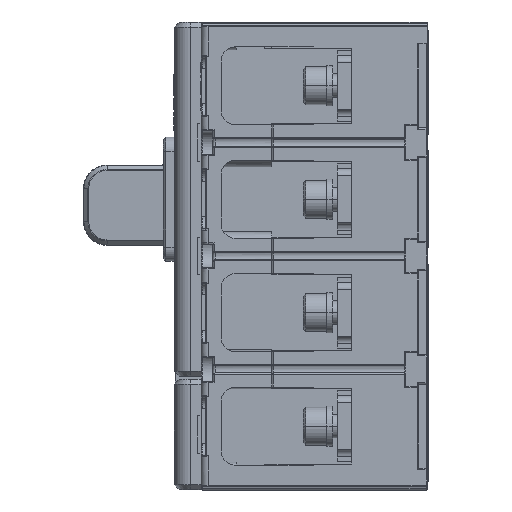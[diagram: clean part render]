
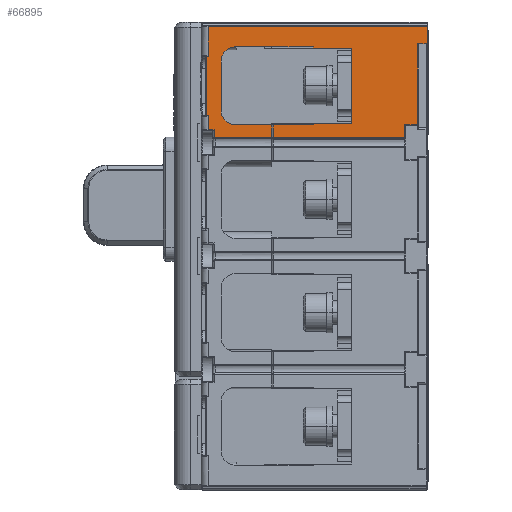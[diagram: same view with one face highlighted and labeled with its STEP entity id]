
A CAD part, left-side view. The second image highlights one B-rep face of the part: STEP entity #66895.
In plain terms, the highlighted planar face has unit normal (-1, 0, 0).
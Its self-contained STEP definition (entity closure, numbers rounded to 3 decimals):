
#15385=CARTESIAN_POINT('',(-128.5,36.3,58.5));
#15386=DIRECTION('',(-1.,0.,0.));
#15387=DIRECTION('',(0.,0.,1.));
#15388=AXIS2_PLACEMENT_3D('',#15385,#15386,#15387);
#15390=CARTESIAN_POINT('',(-128.5,36.3,37.5));
#15391=DIRECTION('',(-1.,0.,0.));
#15392=DIRECTION('',(0.,1.,0.));
#15393=AXIS2_PLACEMENT_3D('',#15390,#15391,#15392);
#15395=DIRECTION('',(0.,0.,1.));
#15396=VECTOR('',#15395,12.5);
#15397=CARTESIAN_POINT('',(-128.5,47.8,60.5));
#15398=LINE('',#15397,#15396);
#15399=DIRECTION('',(0.,-1.,0.));
#15400=VECTOR('',#15399,92.7);
#15401=CARTESIAN_POINT('',(-128.5,47.8,73.));
#15402=LINE('',#15401,#15400);
#15403=DIRECTION('',(0.,0.,-1.));
#15404=VECTOR('',#15403,7.2);
#15405=CARTESIAN_POINT('',(-128.5,-44.9,73.));
#15406=LINE('',#15405,#15404);
#15411=DIRECTION('',(0.,-1.,0.));
#15412=VECTOR('',#15411,33.);
#15413=CARTESIAN_POINT('',(-128.5,36.3,64.5));
#15414=LINE('',#15413,#15412);
#15452=DIRECTION('',(0.,0.,-1.));
#15453=VECTOR('',#15452,32.);
#15454=CARTESIAN_POINT('',(-128.5,-12.9,64.));
#15455=LINE('',#15454,#15453);
#30069=DIRECTION('',(0.,-1.,0.));
#30070=VECTOR('',#30069,4.1);
#30071=CARTESIAN_POINT('',(-128.5,-40.8,65.8));
#30072=LINE('',#30071,#30070);
#30145=DIRECTION('',(0.,-1.,0.));
#30146=VECTOR('',#30145,5.5);
#30147=CARTESIAN_POINT('',(-128.5,-35.3,31.6));
#30148=LINE('',#30147,#30146);
#30178=DIRECTION('',(0.,0.,1.));
#30179=VECTOR('',#30178,34.2);
#30180=CARTESIAN_POINT('',(-128.5,-40.8,31.6));
#30181=LINE('',#30180,#30179);
#30187=DIRECTION('',(0.,0.,1.));
#30188=VECTOR('',#30187,5.6);
#30189=CARTESIAN_POINT('',(-128.5,-35.3,26.));
#30190=LINE('',#30189,#30188);
#30839=DIRECTION('',(0.,0.,-1.));
#30840=VECTOR('',#30839,3.5);
#30841=CARTESIAN_POINT('',(-128.5,45.3,29.5));
#30842=LINE('',#30841,#30840);
#30852=DIRECTION('',(0.,-1.,0.));
#30853=VECTOR('',#30852,2.5);
#30854=CARTESIAN_POINT('',(-128.5,47.8,29.5));
#30855=LINE('',#30854,#30853);
#30944=DIRECTION('',(0.,0.,-1.));
#30945=VECTOR('',#30944,6.);
#30946=CARTESIAN_POINT('',(-128.5,47.8,35.5));
#30947=LINE('',#30946,#30945);
#31066=DIRECTION('',(0.,0.,-1.));
#31067=VECTOR('',#31066,25.);
#31068=CARTESIAN_POINT('',(-128.5,48.3,60.5));
#31069=LINE('',#31068,#31067);
#31075=DIRECTION('',(0.,-1.,0.));
#31076=VECTOR('',#31075,0.5);
#31077=CARTESIAN_POINT('',(-128.5,48.3,35.5));
#31078=LINE('',#31077,#31076);
#31094=DIRECTION('',(0.,1.,0.));
#31095=VECTOR('',#31094,0.5);
#31096=CARTESIAN_POINT('',(-128.5,47.8,60.5));
#31097=LINE('',#31096,#31095);
#31147=DIRECTION('',(0.,1.,0.));
#31148=VECTOR('',#31147,17.);
#31149=CARTESIAN_POINT('',(-128.5,3.3,31.5));
#31150=LINE('',#31149,#31148);
#31160=DIRECTION('',(0.,1.,0.));
#31161=VECTOR('',#31160,15.5);
#31162=CARTESIAN_POINT('',(-128.5,20.8,31.5));
#31163=LINE('',#31162,#31161);
#31248=DIRECTION('',(0.,1.,0.));
#31249=VECTOR('',#31248,16.2);
#31250=CARTESIAN_POINT('',(-128.5,-12.9,32.));
#31251=LINE('',#31250,#31249);
#31260=DIRECTION('',(0.,0.,-1.));
#31261=VECTOR('',#31260,0.5);
#31262=CARTESIAN_POINT('',(-128.5,3.3,32.));
#31263=LINE('',#31262,#31261);
#31272=DIRECTION('',(0.,0.,-1.));
#31273=VECTOR('',#31272,5.5);
#31274=CARTESIAN_POINT('',(-128.5,20.3,31.5));
#31275=LINE('',#31274,#31273);
#31320=DIRECTION('',(0.,0.,1.));
#31321=VECTOR('',#31320,5.5);
#31322=CARTESIAN_POINT('',(-128.5,20.8,26.));
#31323=LINE('',#31322,#31321);
#31405=DIRECTION('',(0.,-1.,0.));
#31406=VECTOR('',#31405,55.6);
#31407=CARTESIAN_POINT('',(-128.5,20.3,26.));
#31408=LINE('',#31407,#31406);
#31452=DIRECTION('',(0.,-1.,0.));
#31453=VECTOR('',#31452,24.5);
#31454=CARTESIAN_POINT('',(-128.5,45.3,26.));
#31455=LINE('',#31454,#31453);
#31464=DIRECTION('',(0.,0.,1.));
#31465=VECTOR('',#31464,21.);
#31466=CARTESIAN_POINT('',(-128.5,42.3,37.5));
#31467=LINE('',#31466,#31465);
#45360=DIRECTION('',(0.,-1.,0.));
#45361=VECTOR('',#45360,16.2);
#45362=CARTESIAN_POINT('',(-128.5,3.3,64.));
#45363=LINE('',#45362,#45361);
#45372=DIRECTION('',(0.,0.,-1.));
#45373=VECTOR('',#45372,0.5);
#45374=CARTESIAN_POINT('',(-128.5,3.3,64.5));
#45375=LINE('',#45374,#45373);
#56971=CARTESIAN_POINT('',(-128.5,-44.9,65.8));
#56972=VERTEX_POINT('',#56971);
#56973=CARTESIAN_POINT('',(-128.5,-44.9,73.));
#56975=VERTEX_POINT('',#56973);
#59275=CARTESIAN_POINT('',(-128.5,47.8,60.5));
#59276=CARTESIAN_POINT('',(-128.5,47.8,73.));
#59277=VERTEX_POINT('',#59275);
#59278=VERTEX_POINT('',#59276);
#59287=CARTESIAN_POINT('',(-128.5,36.3,64.5));
#59288=CARTESIAN_POINT('',(-128.5,42.3,58.5));
#59289=VERTEX_POINT('',#59287);
#59290=VERTEX_POINT('',#59288);
#59291=CARTESIAN_POINT('',(-128.5,42.3,37.5));
#59292=CARTESIAN_POINT('',(-128.5,36.3,31.5));
#59293=VERTEX_POINT('',#59291);
#59294=VERTEX_POINT('',#59292);
#59295=CARTESIAN_POINT('',(-128.5,20.8,31.5));
#59296=VERTEX_POINT('',#59295);
#59297=CARTESIAN_POINT('',(-128.5,20.8,26.));
#59298=VERTEX_POINT('',#59297);
#59299=CARTESIAN_POINT('',(-128.5,45.3,29.5));
#59300=CARTESIAN_POINT('',(-128.5,45.3,26.));
#59301=VERTEX_POINT('',#59299);
#59302=VERTEX_POINT('',#59300);
#59303=CARTESIAN_POINT('',(-128.5,48.3,60.5));
#59304=VERTEX_POINT('',#59303);
#59305=CARTESIAN_POINT('',(-128.5,-40.8,65.8));
#59306=VERTEX_POINT('',#59305);
#59307=CARTESIAN_POINT('',(-128.5,3.3,32.));
#59308=CARTESIAN_POINT('',(-128.5,3.3,31.5));
#59309=VERTEX_POINT('',#59307);
#59310=VERTEX_POINT('',#59308);
#59311=CARTESIAN_POINT('',(-128.5,-12.9,64.));
#59312=CARTESIAN_POINT('',(-128.5,-12.9,32.));
#59313=VERTEX_POINT('',#59311);
#59314=VERTEX_POINT('',#59312);
#59315=CARTESIAN_POINT('',(-128.5,3.3,64.));
#59316=VERTEX_POINT('',#59315);
#59317=CARTESIAN_POINT('',(-128.5,3.3,64.5));
#59318=VERTEX_POINT('',#59317);
#59370=CARTESIAN_POINT('',(-128.5,48.3,35.5));
#59371=VERTEX_POINT('',#59370);
#59372=CARTESIAN_POINT('',(-128.5,47.8,35.5));
#59373=VERTEX_POINT('',#59372);
#59374=CARTESIAN_POINT('',(-128.5,47.8,29.5));
#59375=VERTEX_POINT('',#59374);
#59506=CARTESIAN_POINT('',(-128.5,20.3,26.));
#59507=VERTEX_POINT('',#59506);
#59512=CARTESIAN_POINT('',(-128.5,20.3,31.5));
#59513=VERTEX_POINT('',#59512);
#59820=CARTESIAN_POINT('',(-128.5,-40.8,31.6));
#59821=VERTEX_POINT('',#59820);
#60928=CARTESIAN_POINT('',(-128.5,-35.3,26.));
#60929=VERTEX_POINT('',#60928);
#60934=CARTESIAN_POINT('',(-128.5,-35.3,31.6));
#60935=VERTEX_POINT('',#60934);
#66834=CARTESIAN_POINT('',(-128.5,1.7,49.5));
#66835=DIRECTION('',(1.,0.,0.));
#66836=DIRECTION('',(0.,-1.,0.));
#66837=AXIS2_PLACEMENT_3D('',#66834,#66835,#66836);
#66838=PLANE('',#66837);
#66840=ORIENTED_EDGE('',*,*,#66839,.F.);
#66842=ORIENTED_EDGE('',*,*,#66841,.T.);
#66844=ORIENTED_EDGE('',*,*,#66843,.F.);
#66846=ORIENTED_EDGE('',*,*,#66845,.T.);
#66848=ORIENTED_EDGE('',*,*,#66847,.F.);
#66850=ORIENTED_EDGE('',*,*,#66849,.F.);
#66852=ORIENTED_EDGE('',*,*,#66851,.F.);
#66854=ORIENTED_EDGE('',*,*,#66853,.F.);
#66856=ORIENTED_EDGE('',*,*,#66855,.F.);
#66858=ORIENTED_EDGE('',*,*,#66857,.F.);
#66860=ORIENTED_EDGE('',*,*,#66859,.F.);
#66862=ORIENTED_EDGE('',*,*,#66861,.F.);
#66864=ORIENTED_EDGE('',*,*,#66863,.F.);
#66865=ORIENTED_EDGE('',*,*,#66777,.T.);
#66866=ORIENTED_EDGE('',*,*,#66825,.T.);
#66868=ORIENTED_EDGE('',*,*,#66867,.T.);
#66870=ORIENTED_EDGE('',*,*,#66869,.F.);
#66872=ORIENTED_EDGE('',*,*,#66871,.F.);
#66874=ORIENTED_EDGE('',*,*,#66873,.F.);
#66876=ORIENTED_EDGE('',*,*,#66875,.F.);
#66878=ORIENTED_EDGE('',*,*,#66877,.F.);
#66880=ORIENTED_EDGE('',*,*,#66879,.F.);
#66882=ORIENTED_EDGE('',*,*,#66881,.F.);
#66884=ORIENTED_EDGE('',*,*,#66883,.F.);
#66886=ORIENTED_EDGE('',*,*,#66885,.F.);
#66888=ORIENTED_EDGE('',*,*,#66887,.F.);
#66890=ORIENTED_EDGE('',*,*,#66889,.F.);
#66892=ORIENTED_EDGE('',*,*,#66891,.F.);
#66893=EDGE_LOOP('',(#66840,#66842,#66844,#66846,#66848,#66850,#66852,#66854,
#66856,#66858,#66860,#66862,#66864,#66865,#66866,#66868,#66870,#66872,#66874,
#66876,#66878,#66880,#66882,#66884,#66886,#66888,#66890,#66892));
#66894=FACE_OUTER_BOUND('',#66893,.F.);
#66895=ADVANCED_FACE('',(#66894),#66838,.F.);
#15389=CIRCLE('',#15388,6.);
#15394=CIRCLE('',#15393,6.);
#66777=EDGE_CURVE('',#59277,#59278,#15398,.T.);
#66825=EDGE_CURVE('',#59278,#56975,#15402,.T.);
#66839=EDGE_CURVE('',#59289,#59318,#15414,.T.);
#66841=EDGE_CURVE('',#59289,#59290,#15389,.T.);
#66843=EDGE_CURVE('',#59293,#59290,#31467,.T.);
#66845=EDGE_CURVE('',#59293,#59294,#15394,.T.);
#66847=EDGE_CURVE('',#59296,#59294,#31163,.T.);
#66849=EDGE_CURVE('',#59298,#59296,#31323,.T.);
#66851=EDGE_CURVE('',#59302,#59298,#31455,.T.);
#66853=EDGE_CURVE('',#59301,#59302,#30842,.T.);
#66855=EDGE_CURVE('',#59375,#59301,#30855,.T.);
#66857=EDGE_CURVE('',#59373,#59375,#30947,.T.);
#66859=EDGE_CURVE('',#59371,#59373,#31078,.T.);
#66861=EDGE_CURVE('',#59304,#59371,#31069,.T.);
#66863=EDGE_CURVE('',#59277,#59304,#31097,.T.);
#66867=EDGE_CURVE('',#56975,#56972,#15406,.T.);
#66869=EDGE_CURVE('',#59306,#56972,#30072,.T.);
#66871=EDGE_CURVE('',#59821,#59306,#30181,.T.);
#66873=EDGE_CURVE('',#60935,#59821,#30148,.T.);
#66875=EDGE_CURVE('',#60929,#60935,#30190,.T.);
#66877=EDGE_CURVE('',#59507,#60929,#31408,.T.);
#66879=EDGE_CURVE('',#59513,#59507,#31275,.T.);
#66881=EDGE_CURVE('',#59310,#59513,#31150,.T.);
#66883=EDGE_CURVE('',#59309,#59310,#31263,.T.);
#66885=EDGE_CURVE('',#59314,#59309,#31251,.T.);
#66887=EDGE_CURVE('',#59313,#59314,#15455,.T.);
#66889=EDGE_CURVE('',#59316,#59313,#45363,.T.);
#66891=EDGE_CURVE('',#59318,#59316,#45375,.T.);
